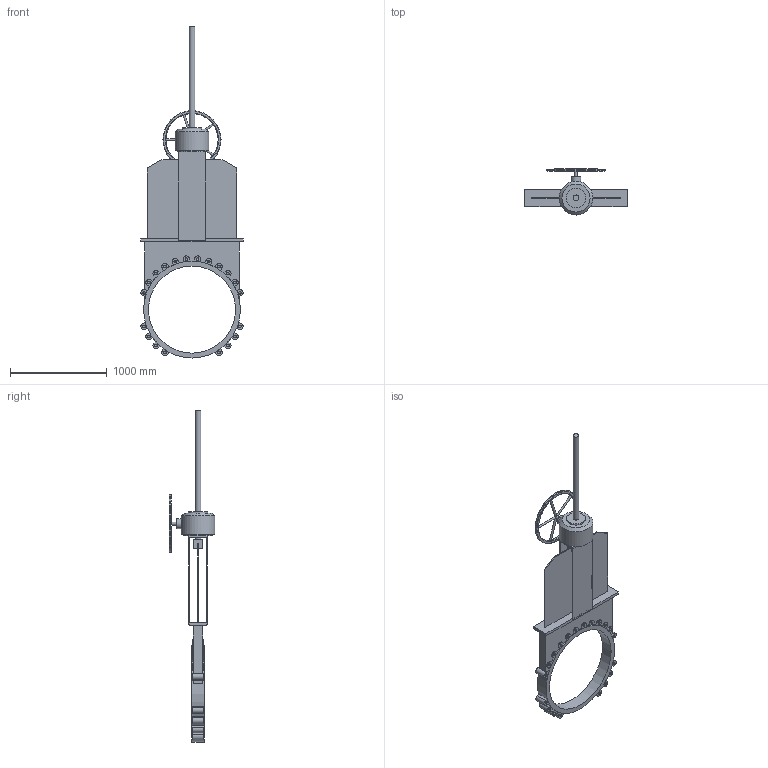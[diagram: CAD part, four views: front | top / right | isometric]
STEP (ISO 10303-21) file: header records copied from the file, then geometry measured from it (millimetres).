
FILE_DESCRIPTION(('STEP AP203'), '1');
FILE_NAME('Çàäâèæêà øèáåðíàÿ K51GV DN900 ðåäóêòîð+âûäâèæíîé øïèíäåëü', '', ('UNSPECIFIED'), ('UNSPECIFIED'), 'ASCON STEP Converter 1.6', 'ASCON Math Kernel', '');
FILE_SCHEMA(('CONFIG_CONTROL_DESIGN'));
Length unit declared in the file: millimetre
Bounding box: 1060 x 475 x 3430.5 mm (x, y, z)
Volume: 97612982 mm3; surface area: 5762372 mm2
Topology: 1 solids, 1 shells, 304 faces, 816 edges, 519 vertices
Faces by surface type: plane 160, cylinder 95, cone 41, torus 8
Full cylindrical faces by diameter (mm): 20 x5, 26.211 x40, 30 x1, 60 x2, 100 x1, 200 x1, 300 x1, 350 x1, 600 x1, 900 x1, 1001 x1
Entity records: 13330 total; most frequent: CARTESIAN_POINT 3787, DIRECTION 1502, ORIENTED_EDGE 1352, EDGE_CURVE 676, AXIS2_PLACEMENT_3D 568, VERTEX_POINT 479, EDGE_LOOP 425, LINE 366
